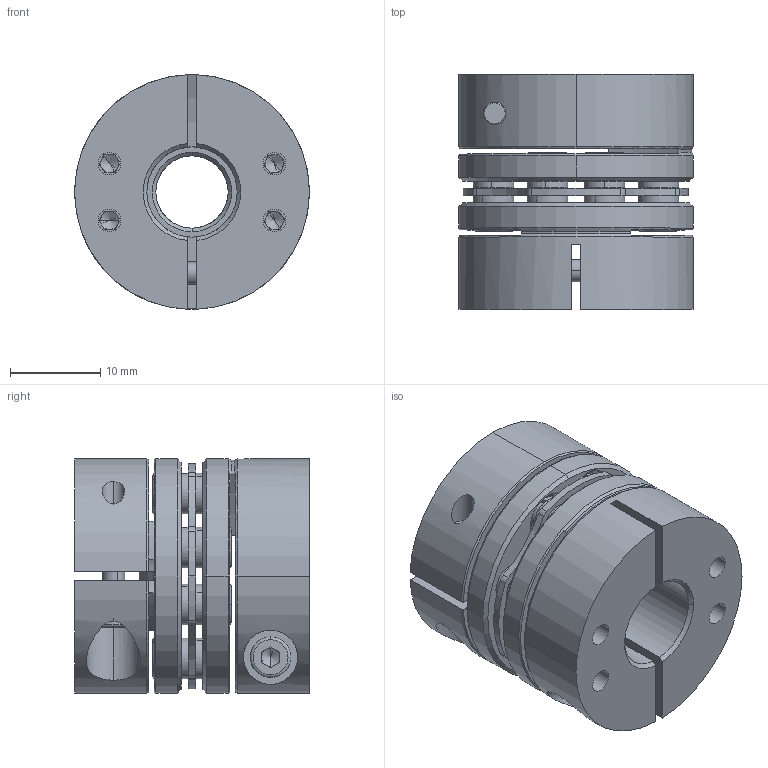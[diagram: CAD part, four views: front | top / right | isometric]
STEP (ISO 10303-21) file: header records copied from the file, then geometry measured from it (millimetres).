
FILE_DESCRIPTION (( 'STEP AP203' ), '1' );
FILE_NAME ('LDG-D26-8-10.STEP', '2021-10-28T03:30:20', ( '' ), ( '' ), 'SwSTEP 2.0', 'SolidWorks 2018', '' );
FILE_SCHEMA (( 'CONFIG_CONTROL_DESIGN' ));
Length unit declared in the file: millimetre
Products named in the file (2): 錨璃2^LDG-D26蚾饜芞1; LDG-D26-8-10
Assembly tree (1 placements, depth 2):
  LDG-D26-8-10
    錨璃2^LDG-D26蚾饜芞1
Bounding box: 26 x 26 x 26 mm (x, y, z)
Volume: 9828.5 mm3; surface area: 8976.9 mm2
Topology: 1 solids, 21 shells, 765 faces, 1872 edges, 1159 vertices
Faces by surface type: cylinder 301, plane 244, cone 200, torus 20
Entity records: 23057 total; most frequent: DIRECTION 4281, CARTESIAN_POINT 4164, ORIENTED_EDGE 3688, EDGE_CURVE 1844, AXIS2_PLACEMENT_3D 1740, VERTEX_POINT 1159, CIRCLE 971, EDGE_LOOP 909
